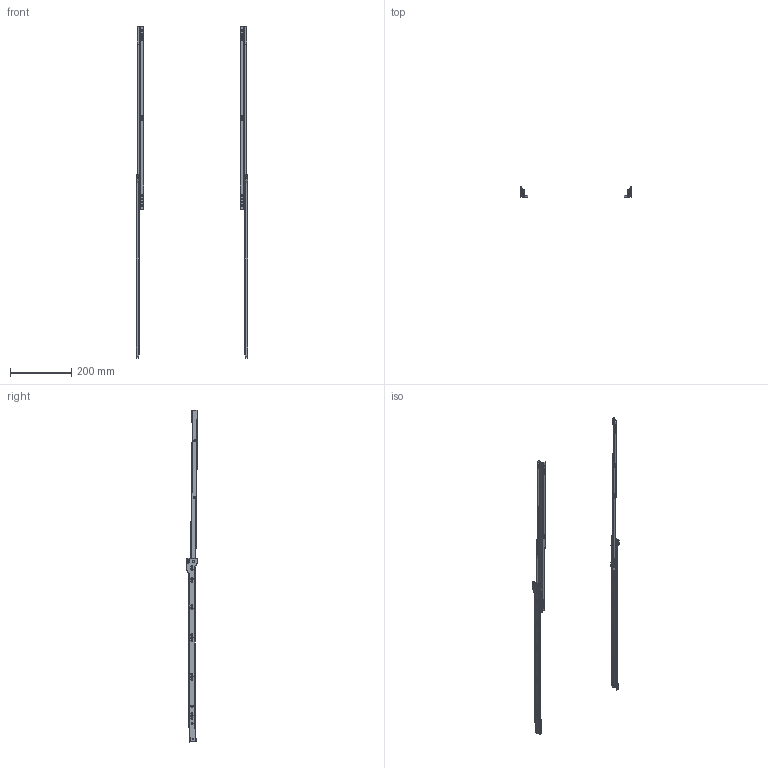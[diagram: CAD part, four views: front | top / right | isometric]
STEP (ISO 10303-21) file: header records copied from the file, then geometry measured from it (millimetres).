
FILE_DESCRIPTION(/* description */ (''),/* implementation_level */ '2;1');
FILE_NAME(/* name */ 'D:\$Workingspace\Designs\Katalog\Cadsoft\GTV Prowadnice\Prowadnice GTV_bryły 3D\PR-0B-600-10_wysunieta.stp',/* time_stamp */ '2016-11-22T15:18:58+01:00',/* author */ ('tomaszw'),/* organization */ (''),/* preprocessor_version */ 'ST-DEVELOPER v16.1',/* originating_system */ 'Autodesk Inventor 2016',/* authorisation */ '');
FILE_SCHEMA (('AUTOMOTIVE_DESIGN { 1 0 10303 214 3 1 1 }'));
Length unit declared in the file: millimetre
Products named in the file (5): PR-0B-600-10_CL; PR-0B-600-10_CR; PR-0B-600-10_DL; PR-0B-600-10_DR; PR-0B
Assembly tree (4 placements, depth 2):
  PR-0B
    PR-0B-600-10_CL
    PR-0B-600-10_CR
    PR-0B-600-10_DL
    PR-0B-600-10_DR
Bounding box: 364 x 37.59 x 1085 mm (x, y, z)
Volume: 85597.8 mm3; surface area: 185242.5 mm2
Topology: 4 solids, 4 shells, 434 faces, 1090 edges, 676 vertices
Faces by surface type: cylinder 194, plane 150, cone 54, torus 28, sphere 8
Full cylindrical faces by diameter (mm): 5 x2, 5.2 x30, 5.4 x10, 6.2 x10, 7 x4, 8 x4, 18.5 x4
Entity records: 13234 total; most frequent: DIRECTION 2292, CARTESIAN_POINT 2239, ORIENTED_EDGE 1920, EDGE_CURVE 960, AXIS2_PLACEMENT_3D 897, EDGE_LOOP 700, VERTEX_POINT 668, LINE 498
